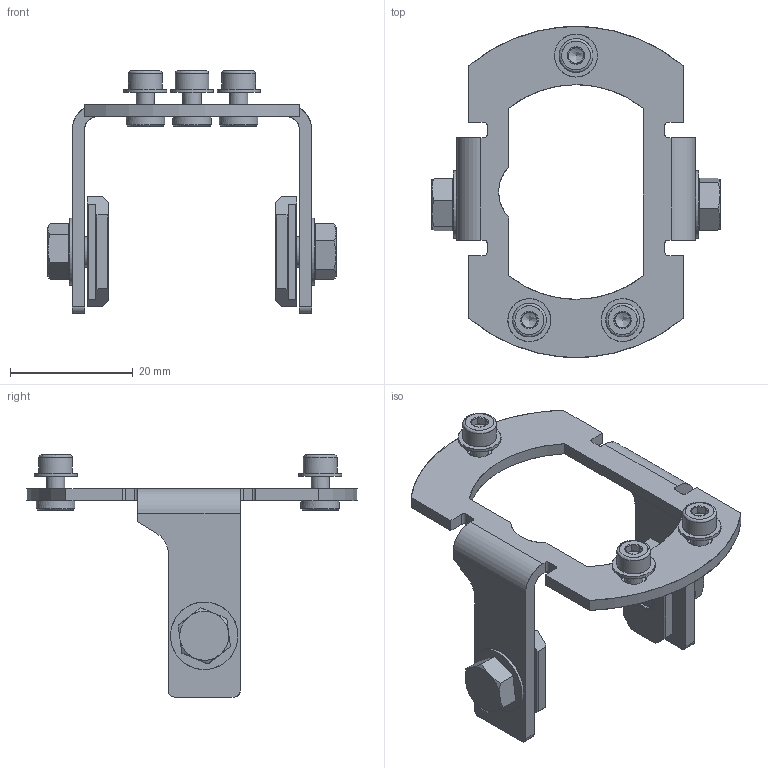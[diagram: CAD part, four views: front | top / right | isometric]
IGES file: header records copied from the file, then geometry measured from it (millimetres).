
Global section: file name: C:\Users\LRossetti\Desktop\DSD_DIM\DSD-0784.igs; native system: NX V10.0; preprocessor: SIEMENS PLM Software NX 10.0; date: 20160829.175246; units: millimetre
Bounding box: 47 x 54 x 39.5 mm (x, y, z)
Surface area: 11899 mm2 (no closed solid volume)
Topology: 0 solids, 0 shells, 531 faces, 3339 edges, 3255 vertices
Faces by surface type: bspline 531
